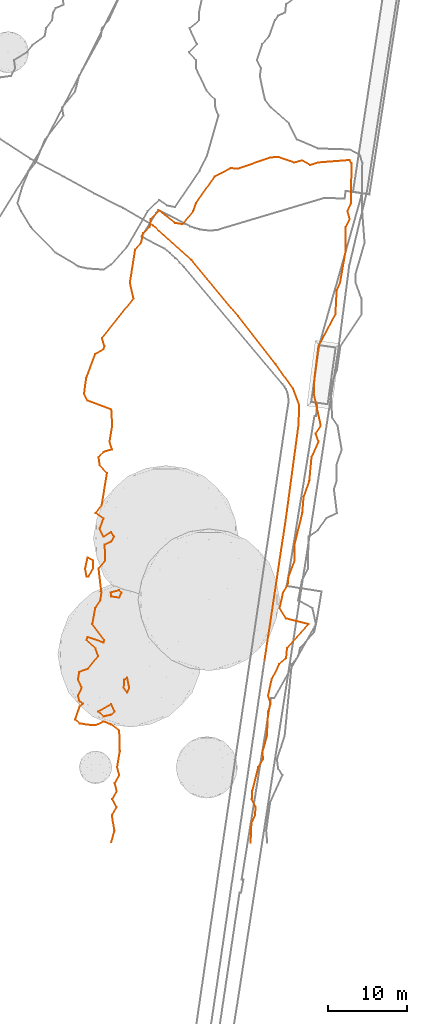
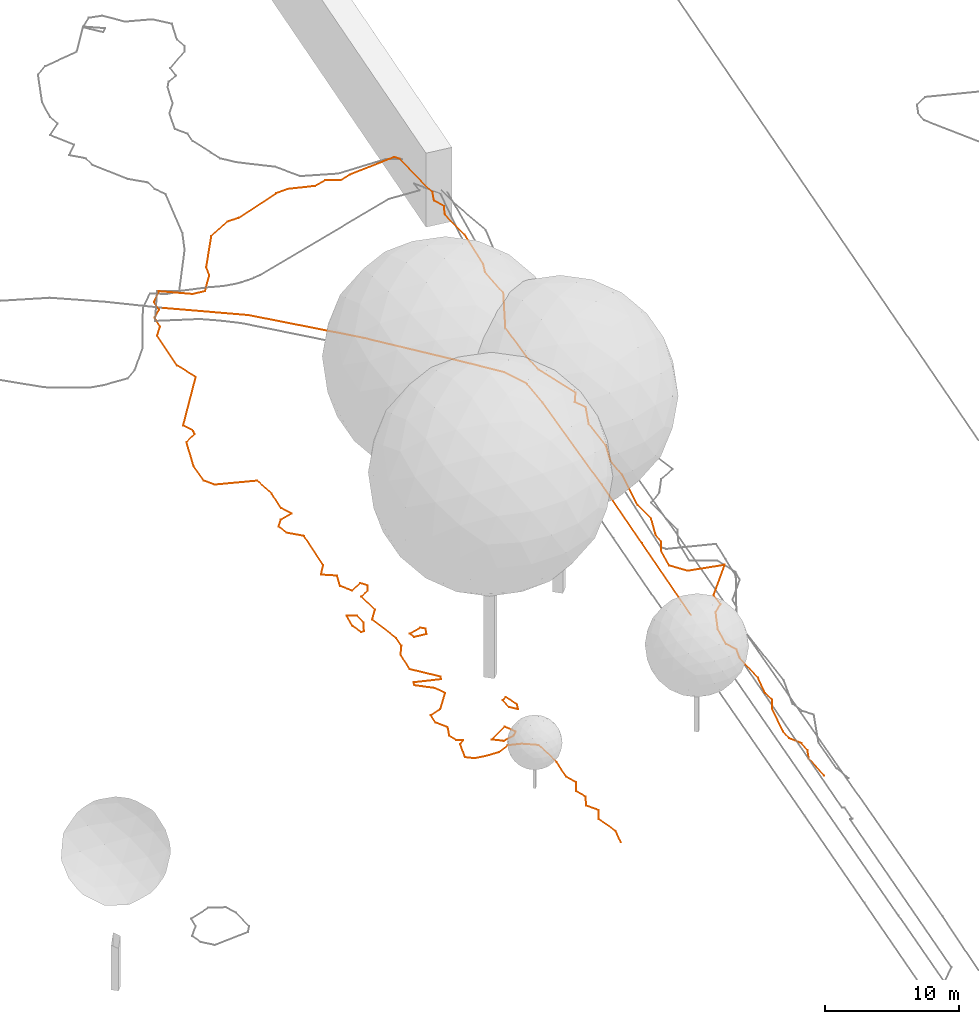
# Not in any storey, part 131 of 494: 7 proxies.
"""IFC2X3 model written with IfcOpenShell, lengths in metres."""

from ifc_helpers import new_model, entity, si_unit, frame, origin_with_axes, place, context, subcontext, project, element, save


model = new_model("IFC2X3")

# Units and contexts
model_context = context("Model", 3, precision=1e-05, world=origin_with_axes())
body_context = subcontext(model_context, "Body", "Model", "MODEL_VIEW")
ifc_project = project(units=[si_unit("AREAUNIT", "SQUARE_METRE"), si_unit("LENGTHUNIT", "METRE")], contexts=[model_context])

# Proxies
proxy_1_placement = place(None, frame((589.9087320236, 76.3427408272, 501.884), z_axis=(0.0, 0.0, 1.0), x_axis=(1.0, 0.0, 0.0)))
element("IfcBuildingElementProxy", 1, at=proxy_1_placement, Name="Road 202", ObjectType="NOTDEFINED", context=body_context, shape_type="GeometricCurveSet", body=[
    entity("IfcGeometricCurveSet", [entity("IfcPolyline", [entity("IfcCartesianPoint", [15.5549999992, -44.7559986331, 0.226]), entity("IfcCartesianPoint", [16.7699999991, -36.6769988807, 0.226]), entity("IfcCartesianPoint", [18.3289999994, -25.1239992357, 0.164]), entity("IfcCartesianPoint", [18.4299999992, -22.5809993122, 0.311]), entity("IfcCartesianPoint", [17.6500000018, -20.5239993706, 0.406]), entity("IfcCartesianPoint", [15.4480000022, -17.4409994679, 0.359]), entity("IfcCartesianPoint", [10.7490000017, -11.420999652, 0.432]), entity("IfcCartesianPoint", [4.875, -4.371999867, 0.292]), entity("IfcCartesianPoint", [0.0, 0.0, 0.0])])]),
])
proxy_2_placement = place(None, frame((603.9687320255, 21.6427424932, 502.109), z_axis=(0.0, 0.0, 1.0), x_axis=(1.0, 0.0, 0.0)))
element("IfcBuildingElementProxy", 2, at=proxy_2_placement, Name="Road 203", ObjectType="NOTDEFINED", context=body_context, shape_type="GeometricCurveSet", body=[
    entity("IfcGeometricCurveSet", [entity("IfcPolyline", [entity("IfcCartesianPoint", [0.0, 0.0, 0.0]), entity("IfcCartesianPoint", [1.4949999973, 9.9439997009, 0.001])])]),
])
proxy_3_placement = place(None, frame((581.3881504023, 33.1707160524, 502.0), z_axis=(0.0, 0.0, 1.0), x_axis=(1.0, 0.0, 0.0)))
element("IfcBuildingElementProxy", 3, at=proxy_3_placement, Name="Contour Line 502.0 m", ObjectType="NOTDEFINED", context=body_context, shape_type="GeometricCurveSet", body=[
    entity("IfcGeometricCurveSet", [entity("IfcPolyline", [entity("IfcCartesianPoint", [0.4042769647, -1.0, 0.0]), entity("IfcCartesianPoint", [0.174266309, -1.0, 0.0]), entity("IfcCartesianPoint", [0.0, 0.0, 0.0]), entity("IfcCartesianPoint", [0.2895816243, 1.3842975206, 0.0]), entity("IfcCartesianPoint", [0.9801756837, 1.0, 0.0]), entity("IfcCartesianPoint", [0.9736901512, 0.0, 0.0]), entity("IfcCartesianPoint", [0.4042769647, -1.0, 0.0])])]),
])
proxy_4_placement = place(None, frame((584.5909395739, 30.1707160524, 502.0), z_axis=(0.0, 0.0, 1.0), x_axis=(1.0, 0.0, 0.0)))
element("IfcBuildingElementProxy", 4, at=proxy_4_placement, Name="Contour Line 502.0 m", ObjectType="NOTDEFINED", context=body_context, shape_type="GeometricCurveSet", body=[
    entity("IfcGeometricCurveSet", [entity("IfcPolyline", [entity("IfcCartesianPoint", [1.0867924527, -0.6587436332, 0.0]), entity("IfcCartesianPoint", [1.3609973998, 0.0, 0.0]), entity("IfcCartesianPoint", [1.0867924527, 0.2840409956, 0.0]), entity("IfcCartesianPoint", [0.0, 0.0, 0.0]), entity("IfcCartesianPoint", [0.0867924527, -0.5227272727, 0.0]), entity("IfcCartesianPoint", [1.0867924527, -0.6587436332, 0.0])])]),
])
proxy_5_placement = place(None, frame((586.2484976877, 18.1707160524, 502.0), z_axis=(0.0, 0.0, 1.0), x_axis=(1.0, 0.0, 0.0)))
element("IfcBuildingElementProxy", 5, at=proxy_5_placement, Name="Contour Line 502.0 m", ObjectType="NOTDEFINED", context=body_context, shape_type="GeometricCurveSet", body=[
    entity("IfcGeometricCurveSet", [entity("IfcPolyline", [entity("IfcCartesianPoint", [0.4292343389, -0.5799373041, 0.0]), entity("IfcCartesianPoint", [0.698521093, 0.0, 0.0]), entity("IfcCartesianPoint", [0.4292343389, 1.2690695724, 0.0]), entity("IfcCartesianPoint", [0.0279843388, 1.0, 0.0]), entity("IfcCartesianPoint", [0.0, 0.0, 0.0]), entity("IfcCartesianPoint", [0.4292343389, -0.5799373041, 0.0])])]),
])
proxy_6_placement = place(None, frame((583.0110653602, 15.1707160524, 502.0), z_axis=(0.0, 0.0, 1.0), x_axis=(1.0, 0.0, 0.0)))
element("IfcBuildingElementProxy", 6, at=proxy_6_placement, Name="Contour Line 502.0 m", ObjectType="NOTDEFINED", context=body_context, shape_type="GeometricCurveSet", body=[
    entity("IfcGeometricCurveSet", [entity("IfcPolyline", [entity("IfcCartesianPoint", [1.6666666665, -0.4046740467, 0.0]), entity("IfcCartesianPoint", [2.069359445, 0.0, 0.0]), entity("IfcCartesianPoint", [1.6666666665, 0.950867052, 0.0]), entity("IfcCartesianPoint", [0.0, 0.0, 0.0]), entity("IfcCartesianPoint", [0.6666666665, -0.6045548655, 0.0]), entity("IfcCartesianPoint", [1.6666666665, -0.4046740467, 0.0])])]),
])
proxy_7_placement = place(None, frame((580.1244803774, 14.1707160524, 502.0), z_axis=(0.0, 0.0, 1.0), x_axis=(1.0, 0.0, 0.0)))
element("IfcBuildingElementProxy", 7, at=proxy_7_placement, Name="Contour Line 502.0 m", ObjectType="NOTDEFINED", context=body_context, shape_type="GeometricCurveSet", body=[
    entity("IfcGeometricCurveSet", [entity("IfcPolyline", [entity("IfcCartesianPoint", [4.535220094, -15.5, 0.0]), entity("IfcCartesianPoint", [4.9449567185, -14.0, 0.0]), entity("IfcCartesianPoint", [4.6263899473, -12.0, 0.0]), entity("IfcCartesianPoint", [5.2146735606, -11.0, 0.0]), entity("IfcCartesianPoint", [4.682941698, -10.0, 0.0]), entity("IfcCartesianPoint", [5.2380178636, -9.0, 0.0]), entity("IfcCartesianPoint", [4.9910314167, -8.0, 0.0]), entity("IfcCartesianPoint", [5.5571083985, -7.0, 0.0]), entity("IfcCartesianPoint", [5.284428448, -6.0, 0.0]), entity("IfcCartesianPoint", [5.6289653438, -4.0, 0.0]), entity("IfcCartesianPoint", [5.5532516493, -1.3805104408, 0.0]), entity("IfcCartesianPoint", [4.5532516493, -0.6118836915, 0.0]), entity("IfcCartesianPoint", [3.5532516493, -0.2598639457, 0.0]), entity("IfcCartesianPoint", [2.5532516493, -0.7144319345, 0.0]), entity("IfcCartesianPoint", [1.5532516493, -0.6606334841, 0.0]), entity("IfcCartesianPoint", [0.5532516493, -0.4859271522, 0.0]), entity("IfcCartesianPoint", [0.0, 0.0, 0.0]), entity("IfcCartesianPoint", [0.5532516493, 1.6458333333, 0.0]), entity("IfcCartesianPoint", [1.0006200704, 2.0, 0.0]), entity("IfcCartesianPoint", [0.5532516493, 2.2698412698, 0.0]), entity("IfcCartesianPoint", [0.3742633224, 3.0, 0.0]), entity("IfcCartesianPoint", [0.8372516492, 4.0, 0.0]), entity("IfcCartesianPoint", [0.3597259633, 5.0, 0.0]), entity("IfcCartesianPoint", [0.5108274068, 6.0, 0.0]), entity("IfcCartesianPoint", [1.5532516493, 6.3639896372, 0.0]), entity("IfcCartesianPoint", [2.9089047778, 8.0, 0.0]), entity("IfcCartesianPoint", [2.5532516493, 8.9404934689, 0.0]), entity("IfcCartesianPoint", [1.4180640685, 10.0, 0.0]), entity("IfcCartesianPoint", [1.5532516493, 10.3752244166, 0.0]), entity("IfcCartesianPoint", [3.5532516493, 9.6900826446, 0.0]), entity("IfcCartesianPoint", [3.6719225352, 10.0, 0.0]), entity("IfcCartesianPoint", [2.16462164, 12.0, 0.0]), entity("IfcCartesianPoint", [2.5269358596, 14.0, 0.0]), entity("IfcCartesianPoint", [3.1731557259, 15.0, 0.0]), entity("IfcCartesianPoint", [3.311009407, 16.0, 0.0]), entity("IfcCartesianPoint", [2.9577181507, 19.0, 0.0]), entity("IfcCartesianPoint", [3.7708442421, 20.0, 0.0]), entity("IfcCartesianPoint", [3.7281395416, 22.0, 0.0]), entity("IfcCartesianPoint", [4.5532516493, 22.4229885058, 0.0]), entity("IfcCartesianPoint", [4.8975589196, 23.0, 0.0]), entity("IfcCartesianPoint", [4.5532516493, 23.585081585, 0.0]), entity("IfcCartesianPoint", [3.5532516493, 23.016605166, 0.0]), entity("IfcCartesianPoint", [3.0722047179, 24.0, 0.0]), entity("IfcCartesianPoint", [3.5532516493, 25.278169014, 0.0]), entity("IfcCartesianPoint", [2.577061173, 26.0, 0.0]), entity("IfcCartesianPoint", [3.348182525, 27.0, 0.0]), entity("IfcCartesianPoint", [4.0036230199, 31.0, 0.0]), entity("IfcCartesianPoint", [3.0911080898, 32.0, 0.0]), entity("IfcCartesianPoint", [2.9535325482, 33.0, 0.0]), entity("IfcCartesianPoint", [3.5532516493, 33.6887096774, 0.0]), entity("IfcCartesianPoint", [4.6529138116, 34.0, 0.0]), entity("IfcCartesianPoint", [4.3308490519, 35.0, 0.0]), entity("IfcCartesianPoint", [4.6702729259, 37.0, 0.0]), entity("IfcCartesianPoint", [4.557702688, 39.0, 0.0]), entity("IfcCartesianPoint", [1.5532516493, 40.1361141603, 0.0]), entity("IfcCartesianPoint", [1.1264620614, 41.0, 0.0]), entity("IfcCartesianPoint", [1.3943791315, 43.0, 0.0]), entity("IfcCartesianPoint", [2.5125425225, 46.0, 0.0]), entity("IfcCartesianPoint", [3.5532516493, 46.5984848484, 0.0]), entity("IfcCartesianPoint", [3.6836329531, 47.0, 0.0]), entity("IfcCartesianPoint", [3.3744530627, 48.0, 0.0]), entity("IfcCartesianPoint", [7.348682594, 53.0, 0.0]), entity("IfcCartesianPoint", [6.8969584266, 55.0, 0.0]), entity("IfcCartesianPoint", [7.5532516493, 59.1310514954, 0.0]), entity("IfcCartesianPoint", [8.3087476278, 60.0, 0.0]), entity("IfcCartesianPoint", [8.5532516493, 61.2119253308, 0.0]), entity("IfcCartesianPoint", [9.3805076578, 62.0, 0.0]), entity("IfcCartesianPoint", [9.5178761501, 63.0, 0.0]), entity("IfcCartesianPoint", [10.5532516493, 64.056173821, 0.0]), entity("IfcCartesianPoint", [12.5532516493, 62.4807242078, 0.0]), entity("IfcCartesianPoint", [13.5532516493, 62.3492510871, 0.0]), entity("IfcCartesianPoint", [14.8728619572, 64.0, 0.0]), entity("IfcCartesianPoint", [15.192713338, 65.0, 0.0]), entity("IfcCartesianPoint", [17.5532516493, 68.338391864, 0.0]), entity("IfcCartesianPoint", [19.5532516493, 69.3773550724, 0.0]), entity("IfcCartesianPoint", [20.5532516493, 69.3485959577, 0.0]), entity("IfcCartesianPoint", [24.5532516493, 70.7295769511, 0.0]), entity("IfcCartesianPoint", [25.5532516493, 70.7977775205, 0.0]), entity("IfcCartesianPoint", [27.5532516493, 70.0993211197, 0.0]), entity("IfcCartesianPoint", [28.5532516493, 70.367058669, 0.0]), entity("IfcCartesianPoint", [29.5532516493, 69.7876175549, 0.0]), entity("IfcCartesianPoint", [30.5532516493, 70.1036329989, 0.0]), entity("IfcCartesianPoint", [34.5532516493, 70.4091221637, 0.0]), entity("IfcCartesianPoint", [34.7875753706, 70.0, 0.0]), entity("IfcCartesianPoint", [34.7201548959, 65.0, 0.0]), entity("IfcCartesianPoint", [34.2832739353, 64.0, 0.0]), entity("IfcCartesianPoint", [34.5576786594, 63.0, 0.0]), entity("IfcCartesianPoint", [34.0657453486, 62.0, 0.0]), entity("IfcCartesianPoint", [34.051973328, 59.0, 0.0]), entity("IfcCartesianPoint", [33.3472899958, 55.0, 0.0]), entity("IfcCartesianPoint", [32.9171972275, 54.0, 0.0]), entity("IfcCartesianPoint", [32.7616116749, 51.0, 0.0]), entity("IfcCartesianPoint", [30.627385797, 47.0, 0.0]), entity("IfcCartesianPoint", [30.1235836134, 43.0, 0.0]), entity("IfcCartesianPoint", [30.0402416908, 41.0, 0.0]), entity("IfcCartesianPoint", [30.9223380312, 37.0, 0.0]), entity("IfcCartesianPoint", [30.2736942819, 36.0, 0.0]), entity("IfcCartesianPoint", [30.6365584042, 35.0, 0.0]), entity("IfcCartesianPoint", [29.7515077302, 33.0, 0.0]), entity("IfcCartesianPoint", [29.4756028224, 30.0, 0.0]), entity("IfcCartesianPoint", [28.7545330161, 28.0, 0.0]), entity("IfcCartesianPoint", [28.5907181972, 26.0, 0.0]), entity("IfcCartesianPoint", [27.6164679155, 22.0, 0.0]), entity("IfcCartesianPoint", [27.6245541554, 20.0, 0.0]), entity("IfcCartesianPoint", [26.8572412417, 18.0, 0.0]), entity("IfcCartesianPoint", [26.7593934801, 17.0, 0.0]), entity("IfcCartesianPoint", [26.1647221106, 16.0, 0.0]), entity("IfcCartesianPoint", [25.734921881, 14.0, 0.0]), entity("IfcCartesianPoint", [26.5532516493, 12.7207306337, 0.0]), entity("IfcCartesianPoint", [29.3646465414, 12.0, 0.0]), entity("IfcCartesianPoint", [26.6685768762, 9.0, 0.0]), entity("IfcCartesianPoint", [26.5532516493, 7.7430011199, 0.0]), entity("IfcCartesianPoint", [25.6924018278, 7.0, 0.0]), entity("IfcCartesianPoint", [24.722734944, 5.0, 0.0]), entity("IfcCartesianPoint", [24.2848317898, 3.0, 0.0]), entity("IfcCartesianPoint", [24.6176939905, 2.0, 0.0]), entity("IfcCartesianPoint", [24.2850841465, 1.0, 0.0]), entity("IfcCartesianPoint", [24.1507702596, -2.0, 0.0]), entity("IfcCartesianPoint", [23.6061490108, -4.0, 0.0]), entity("IfcCartesianPoint", [23.636494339, -5.0, 0.0]), entity("IfcCartesianPoint", [23.0552960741, -6.0, 0.0]), entity("IfcCartesianPoint", [22.2933414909, -9.0, 0.0]), entity("IfcCartesianPoint", [22.2384406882, -10.0, 0.0]), entity("IfcCartesianPoint", [22.7086773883, -11.0, 0.0]), entity("IfcCartesianPoint", [22.6492502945, -12.0, 0.0]), entity("IfcCartesianPoint", [22.1961419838, -13.0, 0.0]), entity("IfcCartesianPoint", [22.0839880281, -15.5, 0.0])])]),
])

save(model, "model.ifc")
